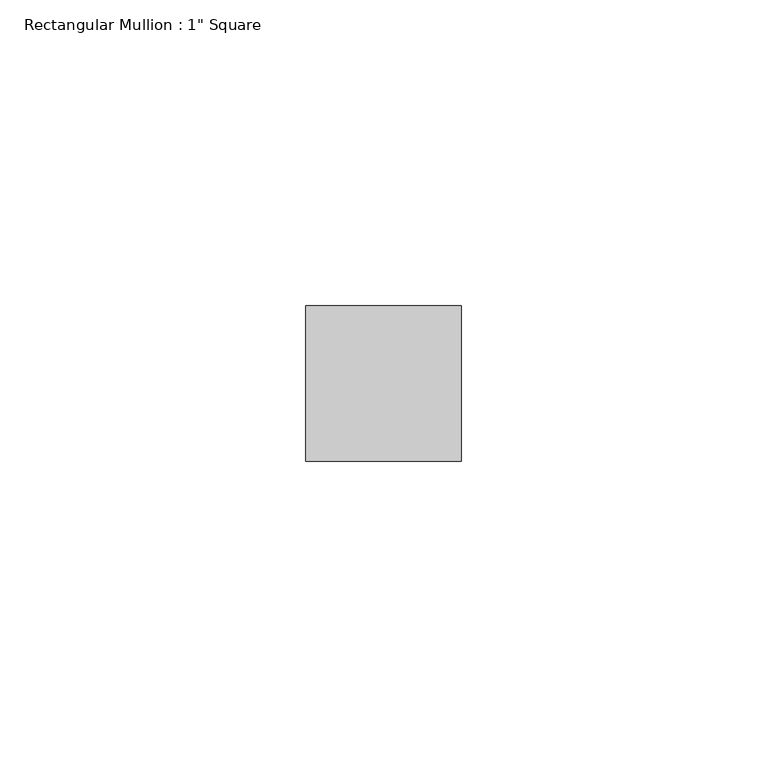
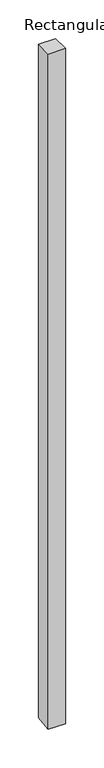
"""IFC4 building model written with IfcOpenShell, lengths in millimetres: member geometry."""

from ifc_helpers import new_model, si_unit, origin, place, context, project, spatial, faceted_brep, source, transform, mapped, element, save


def member_9a94730e(model_context):
    return source(origin(), model_context, "Body", "Brep", [
        faceted_brep([(0.0, 12.7, 0.0), (-25.4, 12.7, 0.0), (-25.4, -12.7, 0.0), (0.0, -12.7, 0.0), (0.0, 12.7, -1062.8355398), (-25.4, 12.7, -1062.7452724), (-25.4, -12.7, -1065.6265971), (0.0, -12.7, -1065.7168645)], [[[0, 1, 2, 3]], [[1, 0, 4, 5]], [[2, 1, 5, 6]], [[3, 2, 6, 7]], [[0, 3, 7, 4]], [[4, 7, 6, 5]]]),
    ])


if __name__ == "__main__":
    model = new_model("IFC4")
    model_context = context("Model", 3, world=origin())
    ifc_project = project(units=[si_unit("LENGTHUNIT", "METRE", prefix="MILLI")], contexts=[model_context])
    site = spatial("IfcSite", under=ifc_project)
    building = spatial("IfcBuilding", under=site)
    placement = place(None, origin())
    member_shape = member_9a94730e(model_context)
    element("IfcMember", 1, ObjectType="Rectangular Mullion : 1\" Square", at=placement, inside=building, context=model_context, shape_type="MappedRepresentation", body=[
        mapped(member_shape, transform((0.0, 0.0, 0.0), x_axis=(1.0, 0.0, 0.0), y_axis=(0.0, 1.0, 0.0), z_axis=(0.0, 0.0, 1.0))),
    ])
    save(model, "model.ifc")
